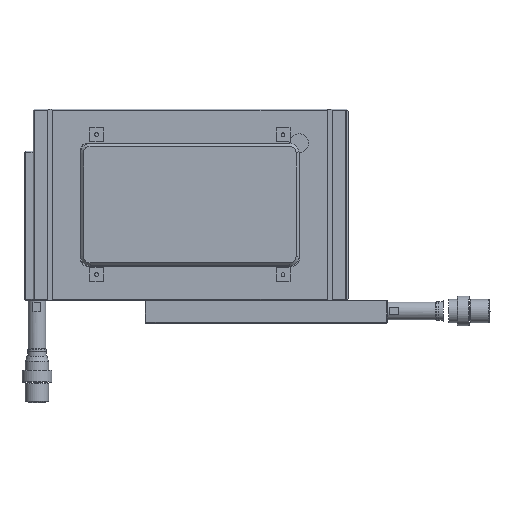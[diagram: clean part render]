
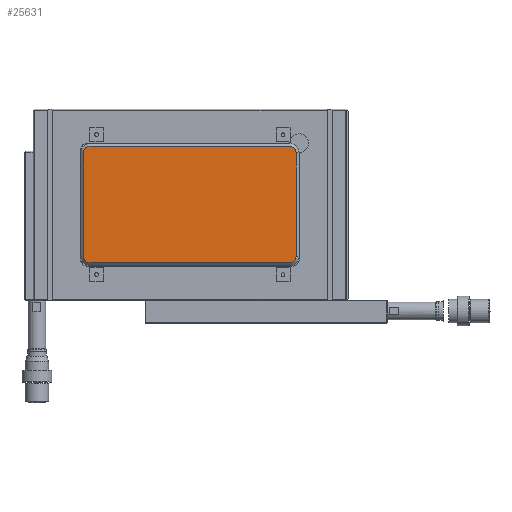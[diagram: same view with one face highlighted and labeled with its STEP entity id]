
A CAD part, top view. The second image highlights one B-rep face of the part: STEP entity #25631.
In plain terms, the highlighted planar face has unit normal (0, 0, 1).
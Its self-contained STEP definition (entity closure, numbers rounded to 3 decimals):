
#2559=CIRCLE('',#28632,7.);
#2560=CIRCLE('',#28634,7.);
#2561=CIRCLE('',#28638,7.);
#2564=CIRCLE('',#28642,7.);
#3851=FACE_OUTER_BOUND('',#5516,.T.);
#5516=EDGE_LOOP('',(#22274,#22275,#22276,#22277,#22278,#22279,#22280,#22281));
#7421=LINE('',#43582,#9339);
#7426=LINE('',#43596,#9344);
#7429=LINE('',#43601,#9347);
#7433=LINE('',#43616,#9351);
#9339=VECTOR('',#36065,10.);
#9344=VECTOR('',#36080,10.);
#9347=VECTOR('',#36085,10.);
#9351=VECTOR('',#36103,10.);
#11800=VERTEX_POINT('',#43579);
#11801=VERTEX_POINT('',#43581);
#11802=VERTEX_POINT('',#43585);
#11803=VERTEX_POINT('',#43589);
#11805=VERTEX_POINT('',#43594);
#11806=VERTEX_POINT('',#43599);
#11808=VERTEX_POINT('',#43604);
#11809=VERTEX_POINT('',#43609);
#15282=EDGE_CURVE('',#11800,#11801,#7421,.T.);
#15285=EDGE_CURVE('',#11802,#11800,#2559,.T.);
#15287=EDGE_CURVE('',#11801,#11803,#2560,.T.);
#15289=EDGE_CURVE('',#11805,#11802,#7426,.T.);
#15292=EDGE_CURVE('',#11803,#11806,#7429,.T.);
#15294=EDGE_CURVE('',#11808,#11805,#2561,.T.);
#15298=EDGE_CURVE('',#11806,#11809,#2564,.T.);
#15300=EDGE_CURVE('',#11809,#11808,#7433,.T.);
#22274=ORIENTED_EDGE('',*,*,#15282,.F.);
#22275=ORIENTED_EDGE('',*,*,#15285,.F.);
#22276=ORIENTED_EDGE('',*,*,#15289,.F.);
#22277=ORIENTED_EDGE('',*,*,#15294,.F.);
#22278=ORIENTED_EDGE('',*,*,#15300,.F.);
#22279=ORIENTED_EDGE('',*,*,#15298,.F.);
#22280=ORIENTED_EDGE('',*,*,#15292,.F.);
#22281=ORIENTED_EDGE('',*,*,#15287,.F.);
#23039=PLANE('',#28646);
#25631=ADVANCED_FACE('',(#3851),#23039,.T.);
#28632=AXIS2_PLACEMENT_3D('',#43587,#36070,#36071);
#28634=AXIS2_PLACEMENT_3D('',#43591,#36075,#36076);
#28638=AXIS2_PLACEMENT_3D('',#43606,#36089,#36090);
#28642=AXIS2_PLACEMENT_3D('',#43613,#36098,#36099);
#28646=AXIS2_PLACEMENT_3D('',#43621,#36110,#36111);
#36065=DIRECTION('',(0.,1.,0.));
#36070=DIRECTION('center_axis',(0.,0.,-1.));
#36071=DIRECTION('ref_axis',(-0.707,-0.707,0.));
#36075=DIRECTION('center_axis',(0.,0.,-1.));
#36076=DIRECTION('ref_axis',(-0.707,0.707,0.));
#36080=DIRECTION('',(-1.,0.,0.));
#36085=DIRECTION('',(1.,0.,0.));
#36089=DIRECTION('center_axis',(0.,0.,-1.));
#36090=DIRECTION('ref_axis',(0.707,-0.707,0.));
#36098=DIRECTION('center_axis',(0.,0.,-1.));
#36099=DIRECTION('ref_axis',(0.707,0.707,0.));
#36103=DIRECTION('',(0.,-1.,0.));
#36110=DIRECTION('center_axis',(0.,0.,1.));
#36111=DIRECTION('ref_axis',(1.,0.,0.));
#43579=CARTESIAN_POINT('',(3.,10.,8.));
#43581=CARTESIAN_POINT('',(3.,121.,8.));
#43582=CARTESIAN_POINT('',(3.,32.75,8.));
#43585=CARTESIAN_POINT('',(10.,3.,8.));
#43587=CARTESIAN_POINT('Origin',(10.,10.,8.));
#43589=CARTESIAN_POINT('',(10.,128.,8.));
#43591=CARTESIAN_POINT('Origin',(10.,121.,8.));
#43594=CARTESIAN_POINT('',(224.,3.,8.));
#43596=CARTESIAN_POINT('',(175.5,3.,8.));
#43599=CARTESIAN_POINT('',(224.,128.,8.));
#43601=CARTESIAN_POINT('',(58.5,128.,8.));
#43604=CARTESIAN_POINT('',(231.,10.,8.));
#43606=CARTESIAN_POINT('Origin',(224.,10.,8.));
#43609=CARTESIAN_POINT('',(231.,121.,8.));
#43613=CARTESIAN_POINT('Origin',(224.,121.,8.));
#43616=CARTESIAN_POINT('',(231.,98.25,8.));
#43621=CARTESIAN_POINT('Origin',(117.,65.5,8.));
